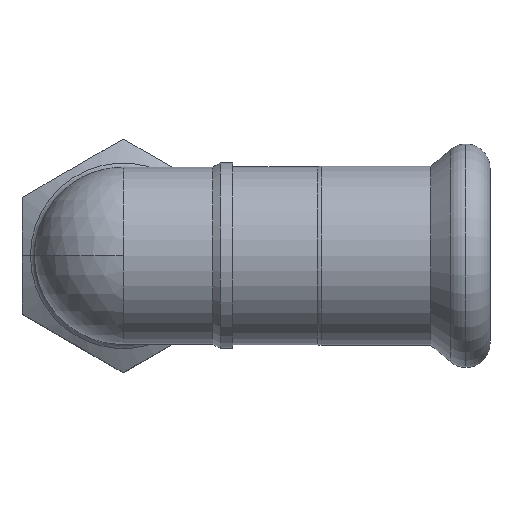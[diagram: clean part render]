
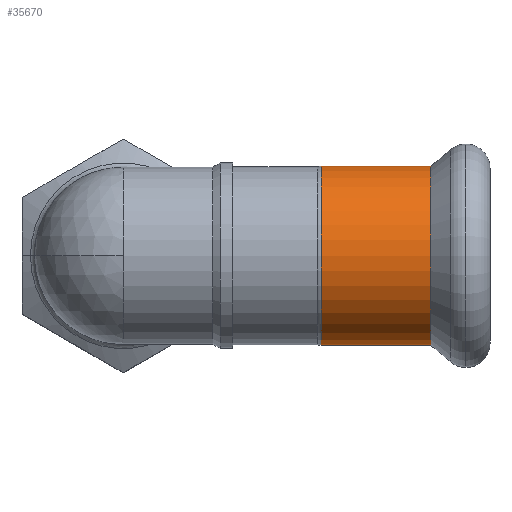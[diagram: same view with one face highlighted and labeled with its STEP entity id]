
A CAD part, top view. The second image highlights one B-rep face of the part: STEP entity #35670.
In plain terms, the highlighted cylindrical face has radius 10.625 mm (diameter 21.25 mm), a partial arc.
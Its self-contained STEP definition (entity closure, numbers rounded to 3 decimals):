
#35020=CARTESIAN_POINT('',(74.853,30.805,28.2));
#35030=VERTEX_POINT('',#35020);
#35210=CARTESIAN_POINT('',(74.853,52.055,28.2));
#35220=VERTEX_POINT('',#35210);
#35250=CARTESIAN_POINT('',(74.853,41.43,28.2));
#35260=DIRECTION('',(1.,0.,0.));
#35270=DIRECTION('',(0.,1.,0.));
#35280=AXIS2_PLACEMENT_3D('',#35250,#35260,#35270);
#35290=CIRCLE('',#35280,10.625);
#35350=CARTESIAN_POINT('',(68.088,41.43,28.2));
#35360=DIRECTION('',(-1.,0.,0.));
#35370=DIRECTION('',(0.,1.,0.));
#35380=AXIS2_PLACEMENT_3D('',#35350,#35360,#35370);
#35390=CYLINDRICAL_SURFACE('',#35380,10.625);
#35400=CARTESIAN_POINT('',(68.088,52.055,28.2));
#35410=DIRECTION('',(-1.,0.,0.));
#35420=VECTOR('',#35410,1.);
#35430=LINE('',#35400,#35420);
#35440=CARTESIAN_POINT('',(61.852,52.055,28.2));
#35450=VERTEX_POINT('',#35440);
#35460=EDGE_CURVE('',#35220,#35450,#35430,.T.);
#35470=ORIENTED_EDGE('',*,*,#35460,.T.);
#35480=EDGE_CURVE('',#35220,#35030,#35290,.T.);
#35490=ORIENTED_EDGE('',*,*,#35480,.F.);
#35500=CARTESIAN_POINT('',(68.088,30.805,28.2));
#35510=DIRECTION('',(-1.,0.,0.));
#35520=VECTOR('',#35510,1.);
#35530=LINE('',#35500,#35520);
#35540=CARTESIAN_POINT('',(61.852,30.805,28.2));
#35550=VERTEX_POINT('',#35540);
#35560=EDGE_CURVE('',#35030,#35550,#35530,.T.);
#35570=ORIENTED_EDGE('',*,*,#35560,.F.);
#35580=CARTESIAN_POINT('',(61.852,41.43,28.2));
#35590=DIRECTION('',(-1.,0.,0.));
#35600=DIRECTION('',(0.,1.,0.));
#35610=AXIS2_PLACEMENT_3D('',#35580,#35590,#35600);
#35620=CIRCLE('',#35610,10.625);
#35630=EDGE_CURVE('',#35550,#35450,#35620,.T.);
#35640=ORIENTED_EDGE('',*,*,#35630,.F.);
#35650=EDGE_LOOP('',(#35640,#35570,#35490,#35470));
#35660=FACE_OUTER_BOUND('',#35650,.T.);
#35670=ADVANCED_FACE('',(#35660),#35390,.T.);
